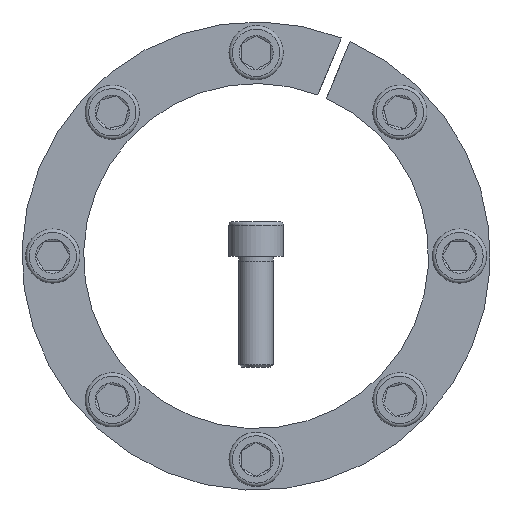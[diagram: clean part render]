
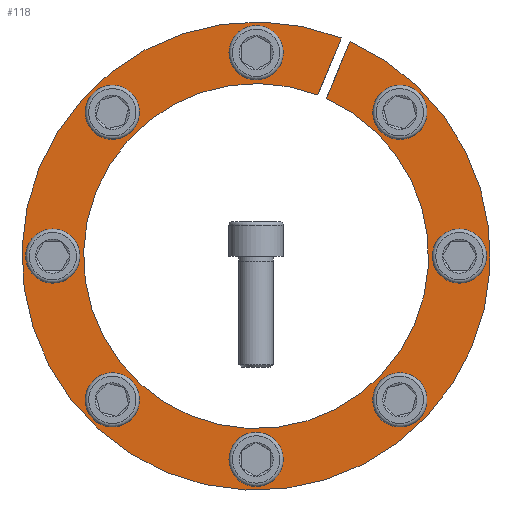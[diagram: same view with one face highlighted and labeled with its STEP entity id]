
A CAD part, front view. The second image highlights one B-rep face of the part: STEP entity #118.
In plain terms, the highlighted planar face has unit normal (0, -1, 0).
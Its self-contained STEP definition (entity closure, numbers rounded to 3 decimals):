
#118 = ADVANCED_FACE( '', ( #268, #269, #270, #271, #272, #273, #274, #275, #276 ), #277, .T. );
#268 = FACE_BOUND( '', #436, .T. );
#269 = FACE_BOUND( '', #437, .T. );
#270 = FACE_BOUND( '', #438, .T. );
#271 = FACE_BOUND( '', #439, .T. );
#272 = FACE_BOUND( '', #440, .T. );
#273 = FACE_BOUND( '', #441, .T. );
#274 = FACE_BOUND( '', #442, .T. );
#275 = FACE_BOUND( '', #443, .T. );
#276 = FACE_OUTER_BOUND( '', #444, .T. );
#277 = PLANE( '', #445 );
#436 = EDGE_LOOP( '', ( #722 ) );
#437 = EDGE_LOOP( '', ( #723 ) );
#438 = EDGE_LOOP( '', ( #724 ) );
#439 = EDGE_LOOP( '', ( #725 ) );
#440 = EDGE_LOOP( '', ( #726 ) );
#441 = EDGE_LOOP( '', ( #727 ) );
#442 = EDGE_LOOP( '', ( #728 ) );
#443 = EDGE_LOOP( '', ( #729 ) );
#444 = EDGE_LOOP( '', ( #730, #731, #732, #733 ) );
#445 = AXIS2_PLACEMENT_3D( '', #734, #735, #736 );
#722 = ORIENTED_EDGE( '', *, *, #858, .T. );
#723 = ORIENTED_EDGE( '', *, *, #842, .T. );
#724 = ORIENTED_EDGE( '', *, *, #865, .T. );
#725 = ORIENTED_EDGE( '', *, *, #927, .T. );
#726 = ORIENTED_EDGE( '', *, *, #928, .T. );
#727 = ORIENTED_EDGE( '', *, *, #877, .T. );
#728 = ORIENTED_EDGE( '', *, *, #839, .T. );
#729 = ORIENTED_EDGE( '', *, *, #925, .T. );
#730 = ORIENTED_EDGE( '', *, *, #929, .F. );
#731 = ORIENTED_EDGE( '', *, *, #902, .T. );
#732 = ORIENTED_EDGE( '', *, *, #908, .T. );
#733 = ORIENTED_EDGE( '', *, *, #847, .T. );
#734 = CARTESIAN_POINT( '', ( 0., 0., 70. ) );
#735 = DIRECTION( '', ( 0., -1., 0. ) );
#736 = DIRECTION( '', ( 0., 0., -1. ) );
#839 = EDGE_CURVE( '', #998, #998, #999, .T. );
#842 = EDGE_CURVE( '', #1003, #1003, #1004, .T. );
#847 = EDGE_CURVE( '', #1013, #1011, #1014, .T. );
#858 = EDGE_CURVE( '', #1033, #1033, #1034, .T. );
#865 = EDGE_CURVE( '', #1044, #1044, #1045, .T. );
#877 = EDGE_CURVE( '', #1064, #1064, #1065, .T. );
#902 = EDGE_CURVE( '', #1105, #1103, #1106, .T. );
#908 = EDGE_CURVE( '', #1103, #1013, #1114, .T. );
#925 = EDGE_CURVE( '', #1137, #1137, #1138, .T. );
#927 = EDGE_CURVE( '', #1140, #1140, #1141, .T. );
#928 = EDGE_CURVE( '', #1142, #1142, #1143, .T. );
#929 = EDGE_CURVE( '', #1105, #1011, #1144, .T. );
#998 = VERTEX_POINT( '', #1297 );
#999 = CIRCLE( '', #1298, 7. );
#1003 = VERTEX_POINT( '', #1302 );
#1004 = CIRCLE( '', #1303, 7. );
#1011 = VERTEX_POINT( '', #1311 );
#1013 = VERTEX_POINT( '', #1314 );
#1014 = LINE( '', #1315, #1316 );
#1033 = VERTEX_POINT( '', #1348 );
#1034 = CIRCLE( '', #1349, 7. );
#1044 = VERTEX_POINT( '', #1360 );
#1045 = CIRCLE( '', #1361, 7. );
#1064 = VERTEX_POINT( '', #1380 );
#1065 = CIRCLE( '', #1381, 7. );
#1103 = VERTEX_POINT( '', #1431 );
#1105 = VERTEX_POINT( '', #1434 );
#1106 = LINE( '', #1435, #1436 );
#1114 = CIRCLE( '', #1445, 95. );
#1137 = VERTEX_POINT( '', #1468 );
#1138 = CIRCLE( '', #1469, 7. );
#1140 = VERTEX_POINT( '', #1471 );
#1141 = CIRCLE( '', #1472, 7. );
#1142 = VERTEX_POINT( '', #1473 );
#1143 = CIRCLE( '', #1474, 7. );
#1144 = CIRCLE( '', #1475, 70. );
#1297 = CARTESIAN_POINT( '', ( -82.5, 0., 7. ) );
#1298 = AXIS2_PLACEMENT_3D( '', #1517, #1518, #1519 );
#1302 = CARTESIAN_POINT( '', ( 63.286, 0., 53.387 ) );
#1303 = AXIS2_PLACEMENT_3D( '', #1523, #1524, #1525 );
#1311 = CARTESIAN_POINT( '', ( 28.533, 0., 63.921 ) );
#1314 = CARTESIAN_POINT( '', ( 38.103, 0., 87.024 ) );
#1315 = CARTESIAN_POINT( '', ( 38.11, 0., 87.041 ) );
#1316 = VECTOR( '', #1531, 1000. );
#1348 = CARTESIAN_POINT( '', ( 7., 0., 82.5 ) );
#1349 = AXIS2_PLACEMENT_3D( '', #1539, #1540, #1541 );
#1360 = CARTESIAN_POINT( '', ( 82.5, 0., -7. ) );
#1361 = AXIS2_PLACEMENT_3D( '', #1552, #1553, #1554 );
#1380 = CARTESIAN_POINT( '', ( -63.286, 0., -53.387 ) );
#1381 = AXIS2_PLACEMENT_3D( '', #1576, #1577, #1578 );
#1431 = CARTESIAN_POINT( '', ( 34.592, 0., 88.478 ) );
#1434 = CARTESIAN_POINT( '', ( 25.023, 0., 65.375 ) );
#1435 = CARTESIAN_POINT( '', ( 25.023, 0., 65.375 ) );
#1436 = VECTOR( '', #1616, 1000. );
#1445 = AXIS2_PLACEMENT_3D( '', #1624, #1625, #1626 );
#1468 = CARTESIAN_POINT( '', ( -53.387, 0., 63.286 ) );
#1469 = AXIS2_PLACEMENT_3D( '', #1657, #1658, #1659 );
#1471 = CARTESIAN_POINT( '', ( 53.387, 0., -63.286 ) );
#1472 = AXIS2_PLACEMENT_3D( '', #1660, #1661, #1662 );
#1473 = CARTESIAN_POINT( '', ( -7., 0., -82.5 ) );
#1474 = AXIS2_PLACEMENT_3D( '', #1663, #1664, #1665 );
#1475 = AXIS2_PLACEMENT_3D( '', #1666, #1667, #1668 );
#1517 = CARTESIAN_POINT( '', ( -82.5, 0., 0. ) );
#1518 = DIRECTION( '', ( 0., 1., 0. ) );
#1519 = DIRECTION( '', ( 0., 0., 1. ) );
#1523 = CARTESIAN_POINT( '', ( 58.336, 0., 58.336 ) );
#1524 = DIRECTION( '', ( 0., 1., 0. ) );
#1525 = DIRECTION( '', ( 0.707, 0., -0.707 ) );
#1531 = DIRECTION( '', ( -0.383, 0., -0.924 ) );
#1539 = CARTESIAN_POINT( '', ( 0., 0., 82.5 ) );
#1540 = DIRECTION( '', ( 0., 1., 0. ) );
#1541 = DIRECTION( '', ( 1., 0., 0. ) );
#1552 = CARTESIAN_POINT( '', ( 82.5, 0., 0. ) );
#1553 = DIRECTION( '', ( 0., 1., 0. ) );
#1554 = DIRECTION( '', ( 0., 0., -1. ) );
#1576 = CARTESIAN_POINT( '', ( -58.336, 0., -58.336 ) );
#1577 = DIRECTION( '', ( 0., 1., 0. ) );
#1578 = DIRECTION( '', ( -0.707, 0., 0.707 ) );
#1616 = DIRECTION( '', ( 0.383, 0., 0.924 ) );
#1624 = CARTESIAN_POINT( '', ( 0., 0., 0. ) );
#1625 = DIRECTION( '', ( 0., -1., 0. ) );
#1626 = DIRECTION( '', ( 0., 0., -1. ) );
#1657 = CARTESIAN_POINT( '', ( -58.336, 0., 58.336 ) );
#1658 = DIRECTION( '', ( 0., 1., 0. ) );
#1659 = DIRECTION( '', ( 0.707, 0., 0.707 ) );
#1660 = CARTESIAN_POINT( '', ( 58.336, 0., -58.336 ) );
#1661 = DIRECTION( '', ( 0., 1., 0. ) );
#1662 = DIRECTION( '', ( -0.707, 0., -0.707 ) );
#1663 = CARTESIAN_POINT( '', ( 0., 0., -82.5 ) );
#1664 = DIRECTION( '', ( 0., 1., 0. ) );
#1665 = DIRECTION( '', ( -1., 0., 0. ) );
#1666 = CARTESIAN_POINT( '', ( 0., 0., 0. ) );
#1667 = DIRECTION( '', ( 0., -1., 0. ) );
#1668 = DIRECTION( '', ( 0., 0., -1. ) );
